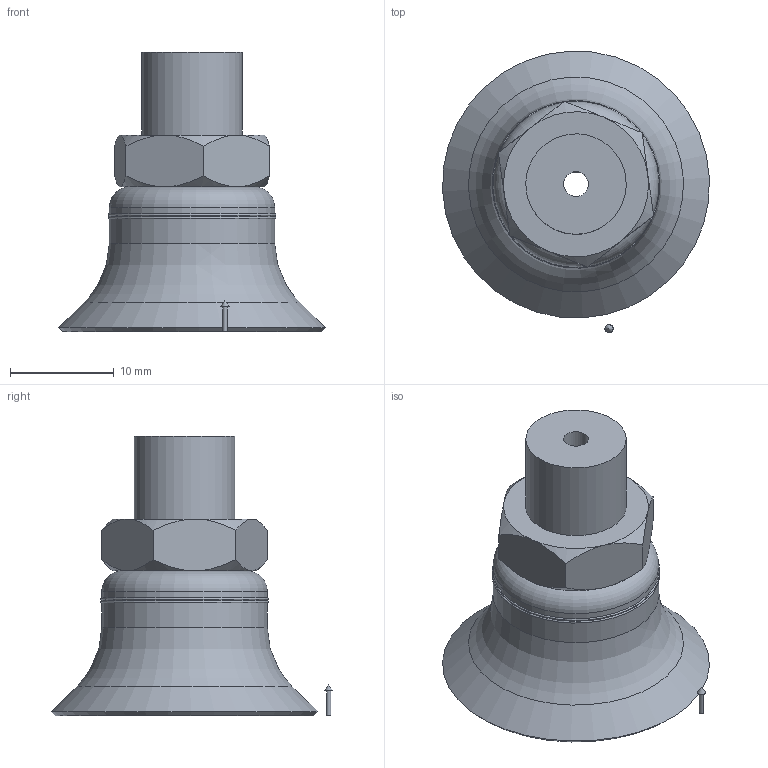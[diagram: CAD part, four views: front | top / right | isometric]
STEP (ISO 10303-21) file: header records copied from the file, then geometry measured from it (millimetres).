
FILE_DESCRIPTION(('STEP AP214'),'1');
FILE_NAME('KIT.08.28.D25.stp','2019-05-27T10:24:18',(' '),(' '),'Spatial InterOp 3D',' ',' ');
FILE_SCHEMA(('AUTOMOTIVE_DESIGN { 1 0 10303 214 1 1 1 1 }'));
Length unit declared in the file: millimetre
Products named in the file (5): KIT.08.28.D25; CA.08.09.017; CA.08.28.007
Assembly tree (4 placements, depth 3):
  KIT.08.28.D25
    CA.08.09.017
    (unnamed)
      CA.08.28.007
      CA.08.28.007
Bounding box: 25.75 x 27.2 x 27 mm (x, y, z)
Volume: 3879 mm3; surface area: 3079.3 mm2
Topology: 3 solids, 3 shells, 47 faces, 93 edges, 56 vertices
Faces by surface type: cone 16, plane 16, cylinder 10, torus 4, bspline 1
Full cylindrical faces by diameter (mm): 0.4 x1, 2.4 x1, 6 x1, 6.5 x1, 9.7 x1, 10 x1, 11 x1, 15.991 x3
Entity records: 1815 total; most frequent: CARTESIAN_POINT 477, DIRECTION 188, ORIENTED_EDGE 138, AXIS2_PLACEMENT_3D 91, EDGE_LOOP 74, EDGE_CURVE 69, FACE_OUTER_BOUND 62, VERTEX_POINT 52
